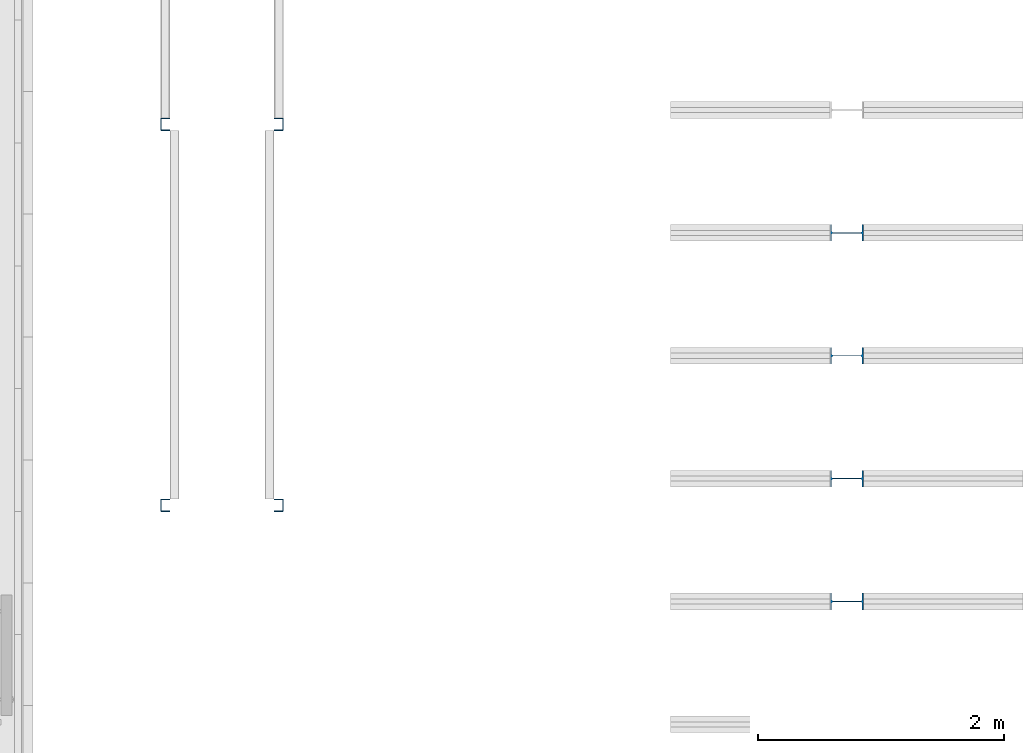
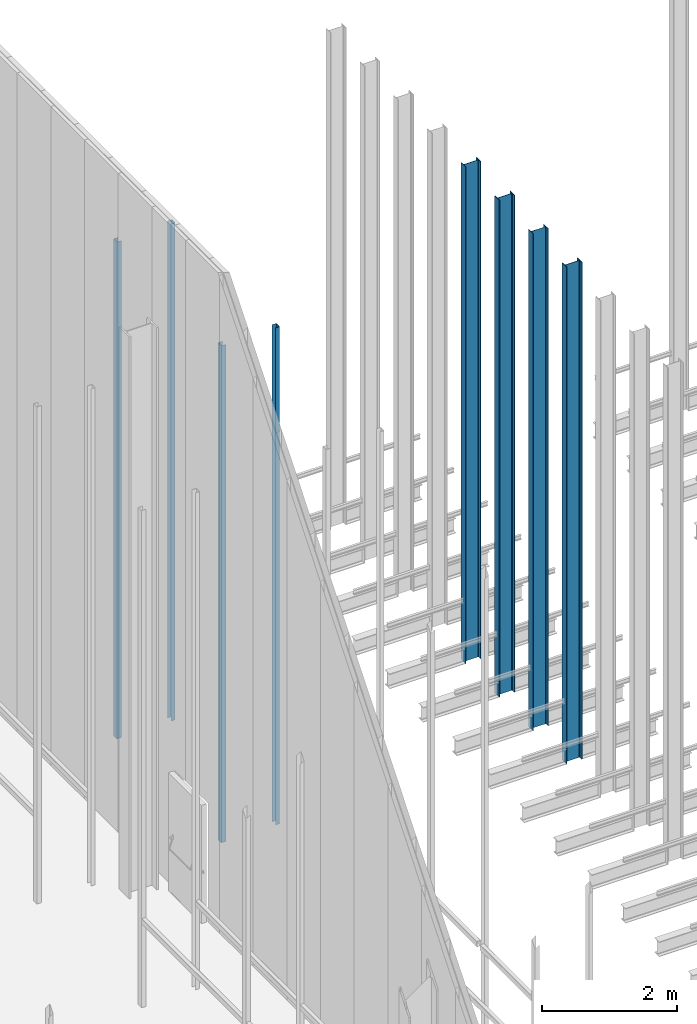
# One storey, part 57 of 302: 8 columns.
"""IFC2X3 building model written with IfcOpenShell, lengths in metres."""

from ifc_helpers import new_model, entity, si_unit, converted_unit, derived_unit, direction, frame, frame_2d, origin, place, context, subcontext, project, spatial, polyline, circle_curve, parameter, trimmed, segment, composite_curve, outline, extrude, source, transform, mapped, material, type_object, type_shapes, element, save


model = new_model("IFC2X3")

# Units and contexts
model_context = context("Model", 3, precision=1e-05, world=origin(), true_north=direction((6.12303176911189e-17, 1.0)))
body_context = subcontext(model_context, "Body", "Model", "MODEL_VIEW")
ifc_project = project(units=[si_unit("LENGTHUNIT", "METRE"), si_unit("AREAUNIT", "SQUARE_METRE"), si_unit("VOLUMEUNIT", "CUBIC_METRE"), converted_unit("PLANEANGLEUNIT", "DEGREE", entity("IfcRatioMeasure", 0.0174532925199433), si_unit("PLANEANGLEUNIT", "RADIAN"), dimensions=[0, 0, 0, 0, 0, 0, 0]), si_unit("MASSUNIT", "GRAM", prefix="KILO"), derived_unit("MASSDENSITYUNIT", [(si_unit("MASSUNIT", "GRAM", prefix="KILO"), 1), (si_unit("LENGTHUNIT", "METRE"), -3)]), derived_unit("MOMENTOFINERTIAUNIT", [(si_unit("LENGTHUNIT", "METRE"), 4)]), si_unit("TIMEUNIT", "SECOND"), si_unit("FREQUENCYUNIT", "HERTZ"), si_unit("THERMODYNAMICTEMPERATUREUNIT", "DEGREE_CELSIUS"), derived_unit("THERMALTRANSMITTANCEUNIT", [(si_unit("MASSUNIT", "GRAM", prefix="KILO"), 1), (si_unit("THERMODYNAMICTEMPERATUREUNIT", "KELVIN"), -1), (si_unit("TIMEUNIT", "SECOND"), -3)]), derived_unit("VOLUMETRICFLOWRATEUNIT", [(si_unit("LENGTHUNIT", "METRE"), 3), (si_unit("TIMEUNIT", "SECOND"), -1)]), si_unit("ELECTRICCURRENTUNIT", "AMPERE"), si_unit("ELECTRICVOLTAGEUNIT", "VOLT"), si_unit("POWERUNIT", "WATT"), si_unit("FORCEUNIT", "NEWTON", prefix="KILO"), si_unit("ILLUMINANCEUNIT", "LUX"), si_unit("LUMINOUSFLUXUNIT", "LUMEN"), si_unit("LUMINOUSINTENSITYUNIT", "CANDELA"), derived_unit("USERDEFINED", [(si_unit("MASSUNIT", "GRAM", prefix="KILO"), -1), (si_unit("LENGTHUNIT", "METRE"), -2), (si_unit("TIMEUNIT", "SECOND"), 3), (si_unit("LUMINOUSFLUXUNIT", "LUMEN"), 1)]), derived_unit("LINEARVELOCITYUNIT", [(si_unit("LENGTHUNIT", "METRE"), 1), (si_unit("TIMEUNIT", "SECOND"), -1)]), si_unit("PRESSUREUNIT", "PASCAL"), derived_unit("USERDEFINED", [(si_unit("LENGTHUNIT", "METRE"), -2), (si_unit("MASSUNIT", "GRAM", prefix="KILO"), 1), (si_unit("TIMEUNIT", "SECOND"), -2)]), derived_unit("LINEARFORCEUNIT", [(si_unit("MASSUNIT", "GRAM", prefix="KILO"), 1), (si_unit("LENGTHUNIT", "METRE"), 1), (si_unit("TIMEUNIT", "SECOND"), -2), (si_unit("LENGTHUNIT", "METRE"), -1)]), derived_unit("PLANARFORCEUNIT", [(si_unit("MASSUNIT", "GRAM", prefix="KILO"), 1), (si_unit("LENGTHUNIT", "METRE"), 1), (si_unit("TIMEUNIT", "SECOND"), -2), (si_unit("LENGTHUNIT", "METRE"), -2)])], contexts=[model_context])

# Site, building, storey
site_placement = place(None, origin())
site = spatial("IfcSite", under=ifc_project, at=site_placement, Name="Default", CompositionType="ELEMENT")
building_placement = place(site_placement, origin())
building = spatial("IfcBuilding", under=site, at=building_placement, CompositionType="ELEMENT")
storey_placement = place(building_placement, frame((0.0, 0.0, -1.3)))
storey = spatial("IfcBuildingStorey", under=building, at=storey_placement, Name="00_EG", CompositionType="ELEMENT", Elevation=-1.3)

# Columns
ifc_material = material(Name="Metall - Baustahl S235")
column_type_1 = type_object("IfcColumnType", Name="Leichter Stahl Schlossschrauben Stütze:C 100", PredefinedType="COLUMN", material=ifc_material)
shared_shape_1 = source(origin(), body_context, "Body", "SweptSolid", [
    extrude(outline(composite_curve([segment(polyline([(-0.0469749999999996, -0.0499999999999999), (0.0214500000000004, -0.0499999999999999)]), True, "CONTINUOUS"), segment(trimmed(circle_curve(frame_2d((0.0214500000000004, -0.0434249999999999), x_axis=(0.0, -1.0)), 0.00657500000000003), [parameter(0.0)], [parameter(89.9999999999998)], True, "PARAMETER"), True, "CONTINUOUS"), segment(polyline([(0.0280250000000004, -0.0434249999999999), (0.0280250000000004, 0.0434250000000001)]), True, "CONTINUOUS"), segment(trimmed(circle_curve(frame_2d((0.0214500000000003, 0.0434250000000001), x_axis=(1.0, 0.0)), 0.0065750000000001), [parameter(0.0)], [parameter(89.9999999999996)], True, "PARAMETER"), True, "CONTINUOUS"), segment(polyline([(0.0214500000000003, 0.0500000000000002), (-0.0469750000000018, 0.0500000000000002)]), True, "CONTINUOUS"), segment(polyline([(-0.0469750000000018, 0.0500000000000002), (-0.0469750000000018, 0.0450000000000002)]), True, "CONTINUOUS"), segment(polyline([(-0.0469750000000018, 0.0450000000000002), (0.0214500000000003, 0.0450000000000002)]), True, "CONTINUOUS"), segment(trimmed(circle_curve(frame_2d((0.0214500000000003, 0.0434249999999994), x_axis=(0.0, 1.0)), 0.00157500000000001), [parameter(269.999999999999)], [parameter(0.0)], True, "PARAMETER"), False, "CONTINUOUS"), segment(polyline([(0.0230250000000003, 0.0434249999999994), (0.0230250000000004, -0.0434249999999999)]), True, "CONTINUOUS"), segment(trimmed(circle_curve(frame_2d((0.0214500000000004, -0.0434249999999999), x_axis=(1.0, 0.0)), 0.00157500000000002), [parameter(270.0)], [parameter(0.0)], True, "PARAMETER"), False, "CONTINUOUS"), segment(polyline([(0.0214500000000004, -0.0449999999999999), (-0.0469749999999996, -0.0449999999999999)]), True, "CONTINUOUS"), segment(polyline([(-0.0469749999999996, -0.0449999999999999), (-0.0469749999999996, -0.0499999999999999)]), True, "CONTINUOUS")], self_intersect=False)), frame((0.0499999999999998, 0.0280250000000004, -0.0300000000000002), z_axis=(0.0, 0.0, 1.0), x_axis=(0.0, -1.0, 0.0)), (0.0, 0.0, 1.0), 9.0),
])
type_shapes(column_type_1, [shared_shape_1])
for number, where, z_axis, x_axis in (
    (1, (-176.230111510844, 48.848088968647, 1.3), (0.0, 0.0, 1.0), (0.0, -1.0, 0.0)),
    (2, (-176.230111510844, 51.948088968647, 1.3), (0.0, 0.0, 1.0), (0.0, -1.0, 0.0)),
):
    element("IfcColumn", number, at=place(storey_placement, frame(where, z_axis=z_axis, x_axis=x_axis)), inside=storey, type_object=column_type_1, material=ifc_material, Name="Leichter Stahl Schlossschrauben Stütze:C 100", ObjectType="Leichter Stahl Schlossschrauben Stütze:C 100", context=body_context, shape_type="MappedRepresentation", body=[
        mapped(shared_shape_1, transform((0.0, 0.0, 0.0), scale=1.0)),
    ])
column_type_2 = type_object("IfcColumnType", Name="Leichter Stahl Schlossschrauben Stütze:C 100", PredefinedType="COLUMN", material=ifc_material)
shared_shape_2 = source(origin(), body_context, "Body", "SweptSolid", [
    extrude(outline(composite_curve([segment(polyline([(-0.0214500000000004, -0.0499999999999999), (0.0469749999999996, -0.0499999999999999)]), True, "CONTINUOUS"), segment(polyline([(0.0469749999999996, -0.0499999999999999), (0.0469749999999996, -0.0449999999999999)]), True, "CONTINUOUS"), segment(polyline([(0.0469749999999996, -0.0449999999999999), (-0.0214500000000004, -0.045)]), True, "CONTINUOUS"), segment(trimmed(circle_curve(frame_2d((-0.0214500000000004, -0.043425), x_axis=(0.0, -1.0)), 0.00157500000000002), [parameter(270.0)], [parameter(0.0)], True, "PARAMETER"), False, "CONTINUOUS"), segment(polyline([(-0.0230250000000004, -0.0434249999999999), (-0.0230250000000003, 0.0434249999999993)]), True, "CONTINUOUS"), segment(trimmed(circle_curve(frame_2d((-0.0214500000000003, 0.0434249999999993), x_axis=(-1.0, 0.0)), 0.00157500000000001), [parameter(269.999999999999)], [parameter(0.0)], True, "PARAMETER"), False, "CONTINUOUS"), segment(polyline([(-0.0214500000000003, 0.0450000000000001), (0.0469750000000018, 0.0450000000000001)]), True, "CONTINUOUS"), segment(polyline([(0.0469750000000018, 0.0450000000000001), (0.0469750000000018, 0.0500000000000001)]), True, "CONTINUOUS"), segment(polyline([(0.0469750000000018, 0.0500000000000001), (-0.0214500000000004, 0.0500000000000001)]), True, "CONTINUOUS"), segment(trimmed(circle_curve(frame_2d((-0.0214500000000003, 0.043425), x_axis=(0.0, 1.0)), 0.0065750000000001), [parameter(0.0)], [parameter(89.9999999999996)], True, "PARAMETER"), True, "CONTINUOUS"), segment(polyline([(-0.0280250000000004, 0.043425), (-0.0280250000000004, -0.043425)]), True, "CONTINUOUS"), segment(trimmed(circle_curve(frame_2d((-0.0214500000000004, -0.0434249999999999), x_axis=(-1.0, 0.0)), 0.00657500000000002), [parameter(0.0)], [parameter(89.9999999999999)], True, "PARAMETER"), True, "CONTINUOUS")], self_intersect=False)), frame((0.0499999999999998, -0.0280250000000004, -0.0300000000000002), z_axis=(0.0, 0.0, 1.0), x_axis=(0.0, -1.0, 0.0)), (0.0, 0.0, 1.0), 9.0),
])
type_shapes(column_type_2, [shared_shape_2])
for number, where, z_axis, x_axis in (
    (3, (-175.230111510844, 48.848088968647, 1.3), (0.0, 0.0, 1.0), (0.0, -1.0, 0.0)),
    (4, (-175.230111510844, 51.948088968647, 1.3), (0.0, 0.0, 1.0), (0.0, -1.0, 0.0)),
):
    element("IfcColumn", number, at=place(storey_placement, frame(where, z_axis=z_axis, x_axis=x_axis)), inside=storey, type_object=column_type_2, material=ifc_material, Name="Leichter Stahl Schlossschrauben Stütze:C 100", ObjectType="Leichter Stahl Schlossschrauben Stütze:C 100", context=body_context, shape_type="MappedRepresentation", body=[
        mapped(shared_shape_2, transform((0.0, 0.0, 0.0), scale=1.0)),
    ])
column_type_3 = type_object("IfcColumnType", Name="IPE Stütze:IPE 270", PredefinedType="COLUMN", material=ifc_material)
shared_shape_3 = source(origin(), body_context, "Body", "SweptSolid", [
    extrude(outline(composite_curve([segment(polyline([(0.1248, -0.0675), (0.135, -0.0675)]), True, "CONTINUOUS"), segment(polyline([(0.135, -0.0675), (0.135, 0.0675)]), True, "CONTINUOUS"), segment(polyline([(0.135, 0.0675), (0.1248, 0.0675)]), True, "CONTINUOUS"), segment(polyline([(0.1248, 0.0675), (0.1248, 0.0183)]), True, "CONTINUOUS"), segment(trimmed(circle_curve(frame_2d((0.1098, 0.0183), x_axis=(1.0, 0.0)), 0.015), [parameter(270.0)], [parameter(0.0)], True, "PARAMETER"), False, "CONTINUOUS"), segment(polyline([(0.1098, 0.0033), (-0.1098, 0.0033)]), True, "CONTINUOUS"), segment(trimmed(circle_curve(frame_2d((-0.1098, 0.0183), x_axis=(0.0, -1.0)), 0.015), [parameter(270.0)], [parameter(0.0)], True, "PARAMETER"), False, "CONTINUOUS"), segment(polyline([(-0.1248, 0.0183), (-0.1248, 0.0675)]), True, "CONTINUOUS"), segment(polyline([(-0.1248, 0.0675), (-0.135, 0.0675)]), True, "CONTINUOUS"), segment(polyline([(-0.135, 0.0675), (-0.135, -0.0675)]), True, "CONTINUOUS"), segment(polyline([(-0.135, -0.0675), (-0.1248, -0.0675)]), True, "CONTINUOUS"), segment(polyline([(-0.1248, -0.0675), (-0.1248, -0.0183)]), True, "CONTINUOUS"), segment(trimmed(circle_curve(frame_2d((-0.1098, -0.0183), x_axis=(-1.0, 0.0)), 0.015), [parameter(269.999999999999)], [parameter(0.0)], True, "PARAMETER"), False, "CONTINUOUS"), segment(polyline([(-0.1098, -0.0033), (0.1098, -0.0033)]), True, "CONTINUOUS"), segment(trimmed(circle_curve(frame_2d((0.1098, -0.0183), x_axis=(0.0, 1.0)), 0.015), [parameter(270.0)], [parameter(0.0)], True, "PARAMETER"), False, "CONTINUOUS"), segment(polyline([(0.1248, -0.0183), (0.1248, -0.0675)]), True, "CONTINUOUS")], self_intersect=False)), frame((0.0, 0.0, -0.0300000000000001), z_axis=(0.0, 0.0, 1.0), x_axis=(0.0, -1.0, 0.0)), (0.0, 0.0, 1.0), 9.0),
])
type_shapes(column_type_3, [shared_shape_3])
for number, where, z_axis, x_axis in (
    (5, (-170.645111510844, 51.0155889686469, 1.3), (0.0, 0.0, 1.0), (0.0, 1.0, 0.0)),
    (6, (-170.645111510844, 50.0155889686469, 1.3), (0.0, 0.0, 1.0), (0.0, 1.0, 0.0)),
    (7, (-170.645111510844, 49.0155889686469, 1.3), (0.0, 0.0, 1.0), (0.0, 1.0, 0.0)),
    (8, (-170.645111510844, 48.0155889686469, 1.3), (0.0, 0.0, 1.0), (0.0, 1.0, 0.0)),
):
    element("IfcColumn", number, at=place(storey_placement, frame(where, z_axis=z_axis, x_axis=x_axis)), inside=storey, type_object=column_type_3, material=ifc_material, Name="IPE Stütze:IPE 270", ObjectType="IPE Stütze:IPE 270", context=body_context, shape_type="MappedRepresentation", body=[
        mapped(shared_shape_3, transform((0.0, 0.0, 0.0), scale=1.0)),
    ])

save(model, "model.ifc")
